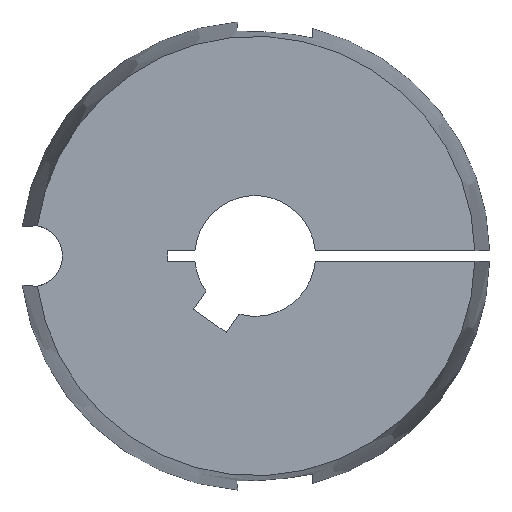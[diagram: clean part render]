
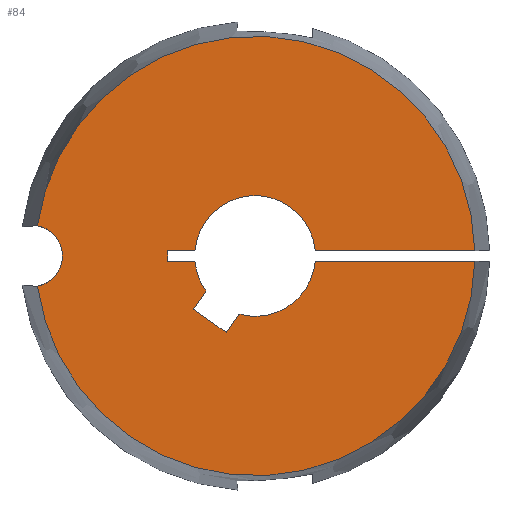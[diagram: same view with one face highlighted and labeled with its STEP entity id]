
A CAD part, left-side view. The second image highlights one B-rep face of the part: STEP entity #84.
In plain terms, the highlighted planar face has unit normal (-1, 0, 0).
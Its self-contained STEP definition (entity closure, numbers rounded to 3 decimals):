
#84 = ADVANCED_FACE( '', ( #114 ), #115, .F. );
#114 = FACE_OUTER_BOUND( '', #154, .T. );
#115 = PLANE( '', #155 );
#154 = EDGE_LOOP( '', ( #251, #252, #253, #254, #255, #256, #257, #258, #259, #260, #261, #262, #263, #264 ) );
#155 = AXIS2_PLACEMENT_3D( '', #265, #266, #267 );
#251 = ORIENTED_EDGE( '', *, *, #349, .T. );
#252 = ORIENTED_EDGE( '', *, *, #381, .F. );
#253 = ORIENTED_EDGE( '', *, *, #352, .T. );
#254 = ORIENTED_EDGE( '', *, *, #365, .T. );
#255 = ORIENTED_EDGE( '', *, *, #363, .T. );
#256 = ORIENTED_EDGE( '', *, *, #360, .T. );
#257 = ORIENTED_EDGE( '', *, *, #369, .T. );
#258 = ORIENTED_EDGE( '', *, *, #382, .T. );
#259 = ORIENTED_EDGE( '', *, *, #383, .T. );
#260 = ORIENTED_EDGE( '', *, *, #384, .T. );
#261 = ORIENTED_EDGE( '', *, *, #385, .T. );
#262 = ORIENTED_EDGE( '', *, *, #386, .T. );
#263 = ORIENTED_EDGE( '', *, *, #354, .T. );
#264 = ORIENTED_EDGE( '', *, *, #387, .F. );
#265 = CARTESIAN_POINT( '', ( -31.8, 0., 0. ) );
#266 = DIRECTION( '', ( 1., 0., 0. ) );
#267 = DIRECTION( '', ( 0., 0., -1. ) );
#349 = EDGE_CURVE( '', #402, #407, #409, .T. );
#352 = EDGE_CURVE( '', #415, #413, #416, .T. );
#354 = EDGE_CURVE( '', #418, #419, #420, .T. );
#360 = EDGE_CURVE( '', #431, #429, #432, .T. );
#363 = EDGE_CURVE( '', #436, #431, #437, .T. );
#365 = EDGE_CURVE( '', #413, #436, #439, .T. );
#369 = EDGE_CURVE( '', #429, #443, #445, .T. );
#381 = EDGE_CURVE( '', #415, #407, #465, .T. );
#382 = EDGE_CURVE( '', #443, #466, #467, .T. );
#383 = EDGE_CURVE( '', #466, #468, #469, .T. );
#384 = EDGE_CURVE( '', #468, #470, #471, .T. );
#385 = EDGE_CURVE( '', #470, #472, #473, .T. );
#386 = EDGE_CURVE( '', #472, #418, #474, .T. );
#387 = EDGE_CURVE( '', #402, #419, #475, .T. );
#402 = VERTEX_POINT( '', #521 );
#407 = VERTEX_POINT( '', #531 );
#409 = CIRCLE( '', #538, 4.6 );
#413 = VERTEX_POINT( '', #543 );
#415 = VERTEX_POINT( '', #546 );
#416 = LINE( '', #547, #548 );
#418 = VERTEX_POINT( '', #556 );
#419 = VERTEX_POINT( '', #557 );
#420 = LINE( '', #558, #559 );
#429 = VERTEX_POINT( '', #577 );
#431 = VERTEX_POINT( '', #580 );
#432 = LINE( '', #581, #582 );
#436 = VERTEX_POINT( '', #588 );
#437 = LINE( '', #589, #590 );
#439 = CIRCLE( '', #593, 9. );
#443 = VERTEX_POINT( '', #598 );
#445 = LINE( '', #601, #602 );
#465 = CIRCLE( '', #625, 32.776 );
#466 = VERTEX_POINT( '', #626 );
#467 = CIRCLE( '', #627, 9. );
#468 = VERTEX_POINT( '', #628 );
#469 = LINE( '', #629, #630 );
#470 = VERTEX_POINT( '', #631 );
#471 = LINE( '', #632, #633 );
#472 = VERTEX_POINT( '', #634 );
#473 = LINE( '', #635, #636 );
#474 = CIRCLE( '', #637, 9. );
#475 = CIRCLE( '', #638, 32.776 );
#521 = CARTESIAN_POINT( '', ( -31.8, 32.464, 4.516 ) );
#531 = CARTESIAN_POINT( '', ( -31.8, 32.464, -4.516 ) );
#538 = AXIS2_PLACEMENT_3D( '', #702, #703, #704 );
#543 = CARTESIAN_POINT( '', ( -31.8, -8.969, -0.75 ) );
#546 = CARTESIAN_POINT( '', ( -31.8, -32.768, -0.75 ) );
#547 = CARTESIAN_POINT( '', ( -31.8, -35., -0.75 ) );
#548 = VECTOR( '', #707, 1000. );
#556 = CARTESIAN_POINT( '', ( -31.8, -8.969, 0.75 ) );
#557 = CARTESIAN_POINT( '', ( -31.8, -32.768, 0.75 ) );
#558 = CARTESIAN_POINT( '', ( -31.8, 0., 0.75 ) );
#559 = VECTOR( '', #708, 1000. );
#577 = CARTESIAN_POINT( '', ( -31.8, 9.226, -7.945 ) );
#580 = CARTESIAN_POINT( '', ( -31.8, 4.311, -11.387 ) );
#581 = CARTESIAN_POINT( '', ( -31.8, 4.311, -11.387 ) );
#582 = VECTOR( '', #713, 1000. );
#588 = CARTESIAN_POINT( '', ( -31.8, 2.41, -8.671 ) );
#589 = CARTESIAN_POINT( '', ( -31.8, 2.41, -8.671 ) );
#590 = VECTOR( '', #716, 1000. );
#593 = AXIS2_PLACEMENT_3D( '', #718, #719, #720 );
#598 = CARTESIAN_POINT( '', ( -31.8, 7.324, -5.23 ) );
#601 = CARTESIAN_POINT( '', ( -31.8, 9.226, -7.945 ) );
#602 = VECTOR( '', #726, 1000. );
#625 = AXIS2_PLACEMENT_3D( '', #754, #755, #756 );
#626 = CARTESIAN_POINT( '', ( -31.8, 8.969, -0.75 ) );
#627 = AXIS2_PLACEMENT_3D( '', #757, #758, #759 );
#628 = CARTESIAN_POINT( '', ( -31.8, 13., -0.75 ) );
#629 = CARTESIAN_POINT( '', ( -31.8, 0., -0.75 ) );
#630 = VECTOR( '', #760, 1000. );
#631 = CARTESIAN_POINT( '', ( -31.8, 13., 0.75 ) );
#632 = CARTESIAN_POINT( '', ( -31.8, 13., -0.75 ) );
#633 = VECTOR( '', #761, 1000. );
#634 = CARTESIAN_POINT( '', ( -31.8, 8.969, 0.75 ) );
#635 = CARTESIAN_POINT( '', ( -31.8, 13., 0.75 ) );
#636 = VECTOR( '', #762, 1000. );
#637 = AXIS2_PLACEMENT_3D( '', #763, #764, #765 );
#638 = AXIS2_PLACEMENT_3D( '', #766, #767, #768 );
#702 = CARTESIAN_POINT( '', ( -31.8, 33.34, 0. ) );
#703 = DIRECTION( '', ( 1., 0., 0. ) );
#704 = DIRECTION( '', ( 0., 1., 0. ) );
#707 = DIRECTION( '', ( 0., 1., 0. ) );
#708 = DIRECTION( '', ( 0., -1., 0. ) );
#713 = DIRECTION( '', ( 0., 0.819, 0.574 ) );
#716 = DIRECTION( '', ( 0., 0.574, -0.819 ) );
#718 = CARTESIAN_POINT( '', ( -31.8, 0., 0. ) );
#719 = DIRECTION( '', ( 1., 0., 0. ) );
#720 = DIRECTION( '', ( 0., 0., -1. ) );
#726 = DIRECTION( '', ( 0., -0.574, 0.819 ) );
#754 = CARTESIAN_POINT( '', ( -31.8, 0., 0. ) );
#755 = DIRECTION( '', ( 1., 0., 0. ) );
#756 = DIRECTION( '', ( 0., 0., -1. ) );
#757 = CARTESIAN_POINT( '', ( -31.8, 0., 0. ) );
#758 = DIRECTION( '', ( 1., 0., 0. ) );
#759 = DIRECTION( '', ( 0., 0., -1. ) );
#760 = DIRECTION( '', ( 0., 1., 0. ) );
#761 = DIRECTION( '', ( 0., 0., 1. ) );
#762 = DIRECTION( '', ( 0., -1., 0. ) );
#763 = CARTESIAN_POINT( '', ( -31.8, 0., 0. ) );
#764 = DIRECTION( '', ( 1., 0., 0. ) );
#765 = DIRECTION( '', ( 0., 0., -1. ) );
#766 = CARTESIAN_POINT( '', ( -31.8, 0., 0. ) );
#767 = DIRECTION( '', ( 1., 0., 0. ) );
#768 = DIRECTION( '', ( 0., 0., -1. ) );
